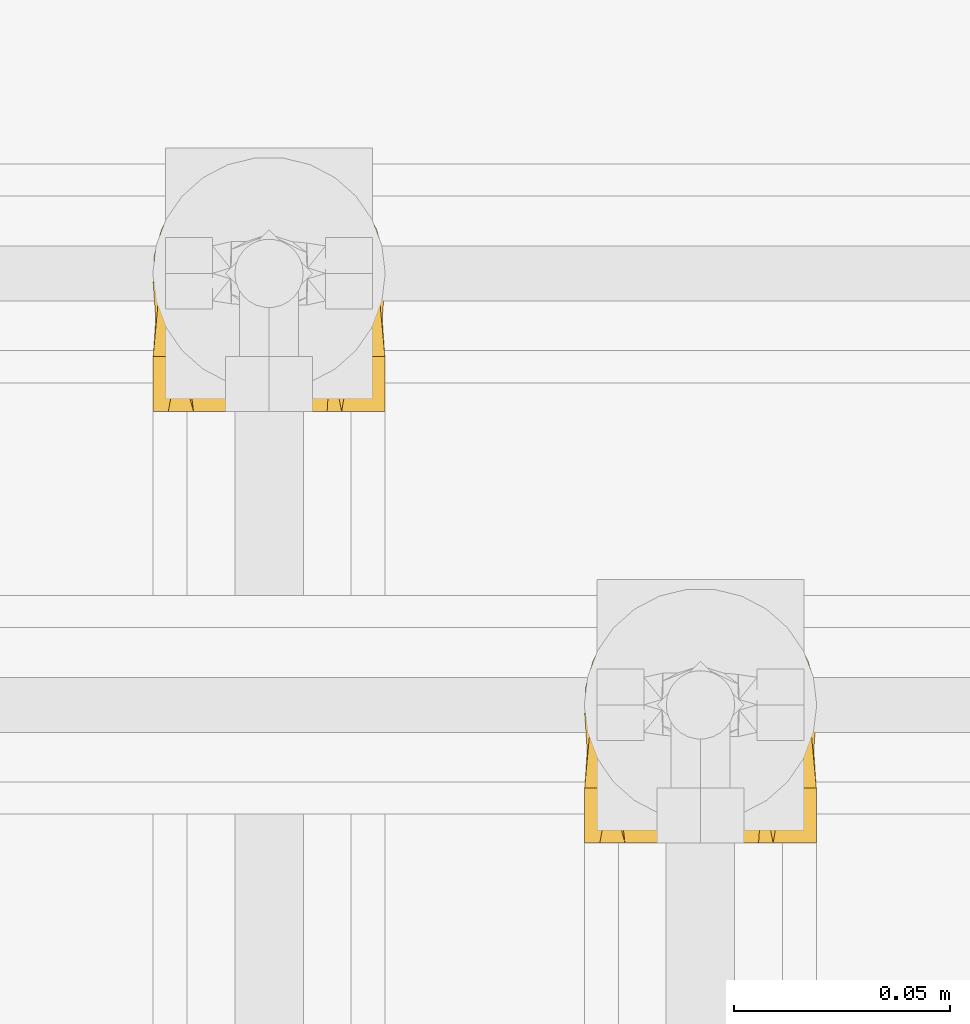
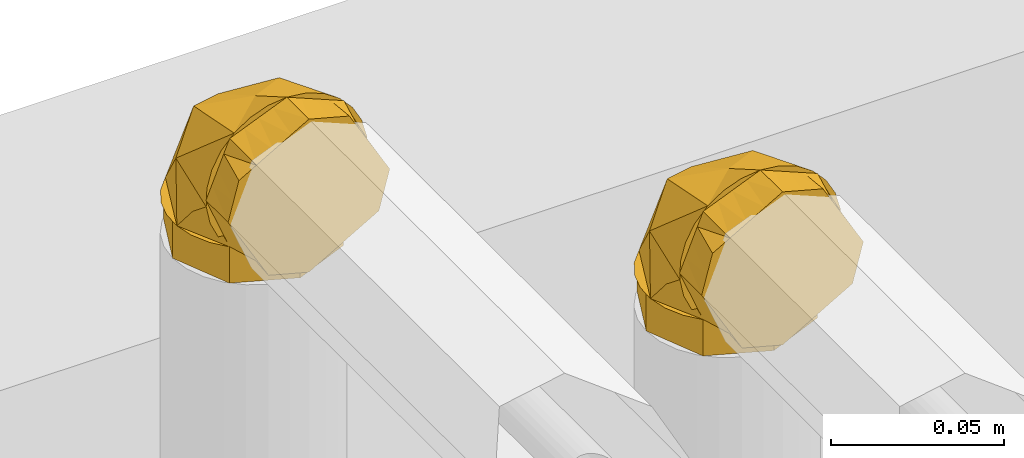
# One storey, part 395 of 652: 2 coverings.
"""IFC2X3 building model written with IfcOpenShell, lengths in millimetres."""

import ifcopenshell
import ifcopenshell.guid

model = None  # the IFC model being written
_history = None  # IfcOwnerHistory: only IFC2X3 demands one
_inside = {}  # id of a spatial element -> (the spatial element, [elements in it])
_under = {}  # id of a project, library or spatial element -> (it, [spatial elements below it])
_declared = {}  # id of a project -> (the project, [libraries it declares])
_typed = {}  # id of a type object -> (the type object, [elements of that type])
_made_of = {}  # id of a material, layer set ... -> (it, [elements and type objects made of it])


def new_model(schema):
    """Start an empty IFC model of exactly this schema.

    Asked for "IFC4X3", IfcOpenShell would pick the latest addendum, in which some entities
    have other attributes; the version numbers below select the first issue.
    IFC2X3 requires an IfcOwnerHistory on every rooted entity: one is made here for all.
    """
    global model, _history
    if schema == "IFC4X3":
        model = ifcopenshell.file(schema_version=(4, 3, 0, 0))
    else:
        model = ifcopenshell.file(schema=schema)
    _inside.clear()
    _under.clear()
    _declared.clear()
    _typed.clear()
    _made_of.clear()
    _history = None
    if model.schema == "IFC2X3":
        org = make("IfcOrganization", Name="unknown")
        user = make(
            "IfcPersonAndOrganization",
            ThePerson=make("IfcPerson", FamilyName="unknown"),
            TheOrganization=org,
        )
        app = make(
            "IfcApplication",
            ApplicationDeveloper=org,
            Version="unknown",
            ApplicationFullName="unknown",
            ApplicationIdentifier="unknown",
        )
        _history = make(
            "IfcOwnerHistory",
            OwningUser=user,
            OwningApplication=app,
            ChangeAction="ADDED",
            CreationDate=0,
        )
    return model


def make(cls, **values):
    """One entity of the class cls with the attributes given. An attribute that is None is left unset."""
    return model.create_entity(
        cls, **{name: value for name, value in values.items() if value is not None}
    )


def entity(cls, *values):
    """Any entity or typed value of the class cls, its attributes in the order of the schema. None: left unset."""
    e = model.create_entity(cls)
    for i, value in enumerate(values):
        if value is not None:
            e[i] = value
    return e


def rooted(cls, **values):
    """An entity with a GlobalId (a new one), such as an element, a storey or a relation."""
    return make(cls, GlobalId=ifcopenshell.guid.new(), OwnerHistory=_history, **values)


def si_unit(unit_type, name, prefix=None):
    """IfcSIUnit, for example si_unit("LENGTHUNIT", "METRE", prefix="MILLI")."""
    return make("IfcSIUnit", UnitType=unit_type, Prefix=prefix, Name=name)


def converted_unit(unit_type, name, factor, base, dimensions=None, offset=None):
    """IfcConversionBasedUnit, such as the inch: factor (a typed value) times the base unit."""
    return make(
        "IfcConversionBasedUnit"
        if offset is None
        else "IfcConversionBasedUnitWithOffset",
        ConversionOffset=offset,
        Dimensions=None
        if dimensions is None
        else entity("IfcDimensionalExponents", *dimensions),
        UnitType=unit_type,
        Name=name,
        ConversionFactor=make(
            "IfcMeasureWithUnit", ValueComponent=factor, UnitComponent=base
        ),
    )


def assignment(units):
    """IfcUnitAssignment: the units of a project."""
    return None if units is None else make("IfcUnitAssignment", Units=units)


def point(xyz):
    """IfcCartesianPoint."""
    return None if xyz is None else make("IfcCartesianPoint", Coordinates=xyz)


def direction(xyz):
    """IfcDirection."""
    return None if xyz is None else make("IfcDirection", DirectionRatios=xyz)


def frame(location, z_axis=None, x_axis=None):
    """IfcAxis2Placement3D, a coordinate frame: its origin and axes. An axis left out is left unset."""
    return make(
        "IfcAxis2Placement3D",
        Location=point(location),
        Axis=direction(z_axis),
        RefDirection=direction(x_axis),
    )


def origin():
    """The frame at (0, 0, 0) with its axes left unset."""
    return frame((0.0, 0.0, 0.0))


def place(relative_to, where):
    """IfcLocalPlacement: puts the frame where relative to a parent placement (None: the world)."""
    return make(
        "IfcLocalPlacement", PlacementRelTo=relative_to, RelativePlacement=where
    )


def context(
    kind, dimensions, precision=None, world=None, true_north=None, identifier=None
):
    """IfcGeometricRepresentationContext, for example the 3D "Model" context."""
    return make(
        "IfcGeometricRepresentationContext",
        ContextIdentifier=identifier,
        ContextType=kind,
        CoordinateSpaceDimension=dimensions,
        Precision=precision,
        WorldCoordinateSystem=world,
        TrueNorth=true_north,
    )


def subcontext(parent, identifier, kind, view, scale=None):
    """IfcGeometricRepresentationSubContext, for example "Body" below "Model"."""
    return make(
        "IfcGeometricRepresentationSubContext",
        ContextIdentifier=identifier,
        ContextType=kind,
        ParentContext=parent,
        TargetScale=scale,
        TargetView=view,
    )


def project(units=None, contexts=None):
    """IfcProject with its units and contexts."""
    return rooted(
        "IfcProject",
        Name="project",
        RepresentationContexts=contexts,
        UnitsInContext=assignment(units),
    )


def spatial(cls, under=None, at=None, **own):
    """A site, building, storey or space (cls), placed at a placement, below another one or the project."""
    s = rooted(cls, ObjectPlacement=at, **own)
    if under is not None:
        _under.setdefault(under.id(), (under, []))[1].append(s)
    return s


def faces_of(points, faces, orient=None, outer=None):
    """IfcFace entities. A face is a list of loops; a loop is a list of indices into points, from 0.

    orient and outer hold one flag for each loop. By default every Orientation is true, the
    first loop of a face is its IfcFaceOuterBound and the others are IfcFaceBound.
    """
    made = []
    for i, loops in enumerate(faces):
        bounds = []
        for j, loop in enumerate(loops):
            is_outer = j == 0 if outer is None else outer[i][j]
            bounds.append(
                make(
                    "IfcFaceOuterBound" if is_outer else "IfcFaceBound",
                    Bound=make("IfcPolyLoop", Polygon=[points[k] for k in loop]),
                    Orientation=True if orient is None else orient[i][j],
                )
            )
        made.append(make("IfcFace", Bounds=bounds))
    return made


def face_set(faces, orient=None, outer=None):
    """The faces of one IfcConnectedFaceSet. surface_model builds it on its shared points."""
    return ("IfcConnectedFaceSet", faces, orient, outer)


def surface_model(cls, points, shells):
    """IfcFaceBasedSurfaceModel or IfcShellBasedSurfaceModel (cls): surfaces that need not close."""
    shared = [point(p) for p in points]
    made = [make(c, CfsFaces=faces_of(shared, fs, o, b)) for c, fs, o, b in shells]
    if cls == "IfcFaceBasedSurfaceModel":
        return make(cls, FbsmFaces=made)
    return make(cls, SbsmBoundary=made)


def shape(context_of_items, identifier, shape_type, items):
    """IfcShapeRepresentation: the items that make up one representation, for example the "Body"."""
    return make(
        "IfcShapeRepresentation",
        ContextOfItems=context_of_items,
        RepresentationIdentifier=identifier,
        RepresentationType=shape_type,
        Items=items,
    )


def material(Name=None, Category=None):
    """IfcMaterial."""
    return make("IfcMaterial", Name=Name, Category=Category)


def made_of(thing, what):
    """Note that an element or type object is made of a material, layer set ...; save() writes the relation."""
    if what is not None:
        _made_of.setdefault(what.id(), (what, []))[1].append(thing)
    return thing


def type_object(cls, material=None, **own):
    """A type object (cls), such as IfcWallType, which elements share."""
    return made_of(rooted(cls, **own), material)


def element(
    cls,
    number,
    at=None,
    inside=None,
    cuts=None,
    type_object=None,
    material=None,
    context=None,
    identifier="Body",
    shape_type=None,
    held_by="IfcProductDefinitionShape",
    body=None,
    shapes=None,
    **own,
):
    """One element of the class cls, such as IfcWall. Its Tag is "e" and its number.

    at: its placement. inside: the storey or other place that contains it. cuts: it is an
    opening in that element (IfcRelVoidsElement). A single representation is given by context,
    identifier, shape_type and body (its items); several are given by shapes. held_by: the class
    of the entity that holds the representations. save() writes the other relations.
    """
    e = rooted(cls, Tag="e%d" % number, ObjectPlacement=at, **own)
    if body is not None:
        shapes = [shape(context, identifier, shape_type, body)]
    if shapes is not None:
        e.Representation = make(held_by, Representations=shapes)
    if inside is not None:
        _inside.setdefault(inside.id(), (inside, []))[1].append(e)
    if cuts is not None:
        rooted(
            "IfcRelVoidsElement", RelatingBuildingElement=cuts, RelatedOpeningElement=e
        )
    if type_object is not None:
        _typed.setdefault(type_object.id(), (type_object, []))[1].append(e)
    return made_of(e, material)


def aggregate(whole, parts):
    """IfcRelAggregates: a whole, such as a stair, and the parts it consists of."""
    return rooted("IfcRelAggregates", RelatingObject=whole, RelatedObjects=parts)


def save(model, path):
    """Write the relations noted so far, then the file.

    IfcRelAggregates (storeys below a building ...), IfcRelContainedInSpatialStructure (elements
    in a storey), IfcRelDefinesByType, IfcRelAssociatesMaterial and IfcRelDeclares: one each for
    every whole, place, type object, material and project.
    """
    for whole, parts in _under.values():
        aggregate(whole, parts)
    for where, things in _inside.values():
        rooted(
            "IfcRelContainedInSpatialStructure",
            RelatedElements=things,
            RelatingStructure=where,
        )
    for kind, things in _typed.values():
        rooted("IfcRelDefinesByType", RelatedObjects=things, RelatingType=kind)
    for what, things in _made_of.values():
        rooted("IfcRelAssociatesMaterial", RelatedObjects=things, RelatingMaterial=what)
    for by, libraries in _declared.values():
        rooted("IfcRelDeclares", RelatingContext=by, RelatedDefinitions=libraries)
    model.write(path)


model = new_model("IFC2X3")

# Units and contexts
model_context = context("Model", 3, precision=0.01, world=frame((0.0, 0.0, 308426.39999999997)), true_north=direction((6.123233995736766e-17, 1.0)))
plan_context = context("Plan", 3, precision=0.01, world=frame((0.0, 0.0, 308426.39999999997)), true_north=direction((6.123233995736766e-17, 1.0)))
body_context = subcontext(model_context, "Body", "Model", "MODEL_VIEW")
ifc_project = project(units=[si_unit("LENGTHUNIT", "METRE", prefix="MILLI"), si_unit("AREAUNIT", "SQUARE_METRE"), si_unit("VOLUMEUNIT", "CUBIC_METRE"), converted_unit("PLANEANGLEUNIT", "DEGREE", entity("IfcPlaneAngleMeasure", 0.017453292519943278), si_unit("PLANEANGLEUNIT", "RADIAN"), dimensions=[0, 0, 0, 0, 0, 0, 0])], contexts=[model_context, plan_context])

# Site, building, storey
site_placement = place(None, origin())
site = spatial("IfcSite", under=ifc_project, at=site_placement, Name="Default", CompositionType="ELEMENT")
building_placement = place(site_placement, origin())
building = spatial("IfcBuilding", under=site, at=building_placement, CompositionType="ELEMENT")
storey_placement = place(building_placement, frame((0.0, 0.0, 1730.6999999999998)))
storey = spatial("IfcBuildingStorey", under=building, at=storey_placement, Name="EG_Produktion_FFB", CompositionType="ELEMENT", Elevation=1730.6999999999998)

# Coverings
ifc_material = material(Name="Dämmung - Armaflex-Schlauch")
covering_type = type_object("IfcCoveringType", Name="Rohrdämmung außen:Armaflex-Schlauch", PredefinedType="INSULATION")
covering_1_placement = place(storey_placement, frame((15061.467227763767, 69558.11944626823, 4228.532772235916)))
element("IfcCovering", 1, at=covering_1_placement, inside=storey, type_object=covering_type, material=ifc_material, Name="Rohrdämmung außen:Armaflex-Schlauch", ObjectType="Rohrdämmung außen:Armaflex-Schlauch", PredefinedType="INSULATION", context=body_context, shape_type="SurfaceModel", body=[
    surface_model("IfcFaceBasedSurfaceModel", [(9.65642195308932, 12.766249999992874, -47.750272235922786), (5.678961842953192, 17.724287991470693, -47.75027223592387), (2.973980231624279, 23.47627931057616, -47.75027223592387), (1.6920879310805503, 29.70195853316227, -47.75027223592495), (1.9046594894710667, 36.054685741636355, -47.75027223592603), (3.5998591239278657, 42.1807471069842, -47.75027223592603), (6.683299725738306, 47.7390493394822, -47.75027223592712), (10.983298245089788, 52.420111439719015, -47.75027223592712), (16.260434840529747, 55.963296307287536, -47.7502722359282), (22.22088354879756, 58.17132276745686, -47.7502722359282), (28.532772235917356, 58.921249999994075, -47.7502722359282), (34.844660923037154, 58.17132276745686, -47.7502722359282), (40.805109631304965, 55.963296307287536, -47.7502722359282), (46.08224622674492, 52.420111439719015, -47.75027223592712), (50.382244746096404, 47.7390493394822, -47.75027223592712), (53.46568534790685, 42.1807471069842, -47.75027223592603), (55.16088498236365, 36.054685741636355, -47.75027223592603), (55.37345654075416, 29.70195853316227, -47.75027223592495), (54.09156424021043, 23.47627931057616, -47.75027223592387), (51.38658262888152, 17.724287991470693, -47.75027223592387), (47.40912251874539, 12.766249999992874, -47.750272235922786), (51.38658262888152, 12.766249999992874, -42.79223424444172), (54.09156424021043, 12.766249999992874, -37.04024292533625), (55.37345654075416, 12.766249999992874, -30.814563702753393), (55.16088498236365, 12.766249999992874, -24.46183649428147), (53.46568534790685, 12.766249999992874, -18.33577512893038), (50.382244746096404, 12.766249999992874, -12.777472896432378), (46.08224622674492, 12.766250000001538, -8.096410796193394), (40.805109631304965, 12.766250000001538, -4.553225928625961), (34.844660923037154, 12.766250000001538, -2.3451994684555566), (28.532772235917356, 12.766250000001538, -1.5952722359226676), (22.22088354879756, 12.766250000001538, -2.3451994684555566), (16.260434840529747, 12.766250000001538, -4.553225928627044), (10.983298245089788, 12.766250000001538, -8.096410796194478), (6.683299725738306, 12.766249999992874, -12.777472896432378), (3.5998591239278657, 12.766249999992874, -18.33577512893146), (1.9046594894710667, 12.766249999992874, -24.46183649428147), (1.6920879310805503, 12.766249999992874, -30.814563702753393), (2.973980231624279, 12.766249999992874, -37.04024292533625), (5.678961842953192, 12.766249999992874, -42.7922342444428), (2.276088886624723, 21.447448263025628, -37.807581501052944), (28.532625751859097, 52.738561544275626, -24.672918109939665), (3.6004266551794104, 33.567638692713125, -26.951267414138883), (6.337468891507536, 41.06020461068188, -47.749997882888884), (28.532625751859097, 31.028258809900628, -12.139962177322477), (14.285820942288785, 41.84155226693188, -17.3326684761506), (6.337468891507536, 12.764257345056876, -19.455213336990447), (42.78059328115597, 41.84155226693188, -17.3326684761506), (54.789162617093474, 21.447448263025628, -37.807581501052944), (53.46598756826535, 33.567638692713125, -26.951267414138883), (50.72778261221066, 12.764257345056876, -19.455213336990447), (50.72778261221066, 41.06020461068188, -47.749997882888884), (28.532772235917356, 58.921250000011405, -60.51652223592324), (33.2946944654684, 56.948797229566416, -60.51652223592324), (38.05661669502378, 54.97634445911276, -60.51652223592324), (42.81853892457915, 53.00389168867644, -60.51652223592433), (47.5804611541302, 51.03143891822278, -60.51652223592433), (49.55291392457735, 46.26951668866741, -60.51652223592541), (51.5253666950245, 41.507594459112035, -60.51652223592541), (53.49781946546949, 36.74567222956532, -60.51652223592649), (55.470272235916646, 31.983750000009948, -60.516522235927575), (53.49781946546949, 27.221827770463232, -60.516522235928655), (51.5253666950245, 22.459905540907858, -60.51652223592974), (49.55291392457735, 17.697983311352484, -60.51652223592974), (47.5804611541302, 12.936061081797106, -60.51652223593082), (42.81853892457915, 10.963608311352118, -60.51652223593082), (38.05661669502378, 8.99115554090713, -60.5165222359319), (33.2946944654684, 7.018702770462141, -60.5165222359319), (28.532772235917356, 5.046250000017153, -60.5165222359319), (23.770850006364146, 7.018702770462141, -60.5165222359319), (19.008927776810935, 8.99115554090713, -60.5165222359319), (14.247005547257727, 10.963608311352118, -60.51652223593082), (9.485083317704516, 12.936061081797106, -60.51652223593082), (7.512630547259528, 17.697983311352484, -60.51652223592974), (5.540177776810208, 22.459905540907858, -60.51652223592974), (3.5677250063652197, 27.221827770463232, -60.516522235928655), (1.5952722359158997, 31.983750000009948, -60.516522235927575), (3.5677250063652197, 36.74567222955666, -60.51652223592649), (5.540177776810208, 41.507594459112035, -60.51652223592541), (7.512630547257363, 46.26951668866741, -60.51652223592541), (9.485083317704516, 51.03143891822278, -60.51652223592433), (14.247005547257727, 53.00389168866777, -60.51652223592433), (19.008927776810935, 54.97634445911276, -60.51652223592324), (23.770850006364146, 56.948797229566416, -60.51652223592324), (28.532772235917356, 58.92125000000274, -47.75027223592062), (23.770850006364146, 56.94879722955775, -47.75027223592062), (19.008927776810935, 54.97634445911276, -47.750272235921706), (14.247005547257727, 53.00389168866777, -47.750272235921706), (9.485083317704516, 51.03143891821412, -47.750272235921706), (7.095738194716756, 45.26304951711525, -47.750272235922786), (4.706393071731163, 39.49466011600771, -47.75027223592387), (1.5952722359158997, 31.983750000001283, -47.75027223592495), (3.5677250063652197, 27.22182777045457, -47.75027223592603), (5.5401777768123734, 22.459905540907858, -47.75027223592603), (7.512630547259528, 17.697983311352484, -47.75027223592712), (9.485083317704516, 12.936061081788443, -47.7502722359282), (15.253472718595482, 10.546715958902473, -47.7502722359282), (21.021862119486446, 8.157370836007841, -47.75027223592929), (28.532772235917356, 5.046250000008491, -47.75027223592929), (33.2946944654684, 7.018702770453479, -47.75027223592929), (38.05661669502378, 8.99115554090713, -47.7502722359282), (42.81853892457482, 10.963608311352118, -47.7502722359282), (47.5804611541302, 12.936061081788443, -47.7502722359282), (49.96980627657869, 18.704450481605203, -47.75027223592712), (52.359151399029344, 24.472839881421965, -47.75027223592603), (55.470272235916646, 31.983750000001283, -47.75027223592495), (53.49781946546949, 36.74567222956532, -47.75027223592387), (51.5253666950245, 41.507594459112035, -47.75027223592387), (49.55291392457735, 46.26951668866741, -47.750272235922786), (47.5804611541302, 51.03143891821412, -47.750272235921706), (41.81207177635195, 53.420784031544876, -47.750272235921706), (36.0436823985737, 55.810129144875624, -47.750272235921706), (28.532772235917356, 0.0, -1.5952722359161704), (22.700632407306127, 0.0, -4.962459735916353), (16.868492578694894, 0.0, -8.329647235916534), (11.036352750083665, 0.0, -11.696834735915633), (5.204212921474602, 0.0, -15.064022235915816), (3.3997425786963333, 0.0, -21.79839723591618), (1.5952722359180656, 0.0, -28.532772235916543), (4.962459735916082, 0.0, -34.36491206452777), (8.329647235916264, 0.0, -40.197051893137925), (11.696834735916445, 0.0, -46.02919172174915), (15.064022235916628, 0.0, -51.861331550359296), (21.79839723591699, 0.0, -53.66580189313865), (28.532772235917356, 0.0, -55.470272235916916), (34.36491206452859, 0.0, -52.10308473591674), (40.197051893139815, 0.0, -48.73589723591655), (46.02919172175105, 0.0, -45.36870973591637), (51.86133155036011, 0.0, -42.00152223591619), (53.66580189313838, 0.0, -35.26714723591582), (55.470272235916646, 0.0, -28.532772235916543), (52.10308473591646, 0.0, -22.700632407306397), (48.73589723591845, 0.0, -16.868492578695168), (45.368709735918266, 0.0, -11.036352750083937), (42.00152223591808, 0.0, -5.204212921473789), (35.26714723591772, 0.0, -3.3997425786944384), (53.49781946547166, 12.766250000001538, -33.29469446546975), (51.5253666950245, 12.766250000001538, -38.05661669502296), (49.55291392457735, 12.766250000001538, -42.818538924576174), (47.5804611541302, 12.766250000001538, -47.58046115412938), (42.818538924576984, 12.766250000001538, -49.552913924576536), (38.05661669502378, 12.766250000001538, -51.52536669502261), (33.2946944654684, 12.766250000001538, -53.49781946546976), (28.532772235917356, 12.766250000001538, -55.470272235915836), (23.770850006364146, 12.766250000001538, -53.49781946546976), (19.008927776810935, 12.766250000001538, -51.52536669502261), (14.247005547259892, 12.766250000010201, -49.552913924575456), (9.485083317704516, 12.766250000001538, -47.58046115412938), (7.512630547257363, 12.766250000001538, -42.818538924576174), (5.540177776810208, 12.766250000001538, -38.05661669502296), (3.5677250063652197, 12.766250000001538, -33.29469446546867), (1.5952722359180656, 12.766250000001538, -28.532772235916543), (3.5677250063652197, 12.766250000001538, -23.770850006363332), (5.540177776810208, 12.766250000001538, -19.008927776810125), (7.512630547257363, 12.766249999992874, -14.247005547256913), (9.485083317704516, 12.766250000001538, -9.485083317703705), (14.247005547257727, 12.766250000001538, -7.51263054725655), (19.008927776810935, 12.766250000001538, -5.540177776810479), (23.770850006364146, 12.766249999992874, -3.567725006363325), (28.532772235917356, 12.766250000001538, -1.5952722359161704), (33.29469446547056, 12.766250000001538, -3.567725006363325), (38.05661669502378, 12.766250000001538, -5.540177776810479), (42.818538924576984, 12.766249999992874, -7.512630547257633), (47.5804611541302, 12.766250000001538, -9.485083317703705), (49.55291392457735, 12.766250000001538, -14.247005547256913), (51.5253666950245, 12.766250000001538, -19.008927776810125), (53.49781946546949, 12.766250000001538, -23.770850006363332), (55.470272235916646, 12.766250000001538, -28.532772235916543)], [face_set([[[0, 1, 2, 3, 4, 5, 6, 7, 8, 9, 10, 11, 12, 13, 14, 15, 16, 17, 18, 19]], [[20, 21, 22, 23, 24, 25, 26, 27, 28, 29, 30, 31, 32, 33, 34, 35, 36, 37, 38, 39]], [[0, 40, 3]], [[10, 7, 41]], [[37, 42, 40]], [[42, 7, 43]], [[37, 40, 0]], [[3, 40, 42]], [[44, 41, 45]], [[7, 45, 41]], [[33, 30, 44]], [[44, 45, 33]], [[42, 33, 45]], [[42, 37, 46]], [[7, 42, 45]], [[43, 3, 42]], [[46, 33, 42]], [[13, 10, 41]], [[27, 47, 44]], [[44, 30, 27]], [[48, 49, 23]], [[49, 27, 50]], [[17, 49, 48]], [[44, 47, 41]], [[20, 48, 23]], [[47, 49, 13]], [[17, 48, 20]], [[41, 47, 13]], [[49, 17, 51]], [[27, 49, 47]], [[50, 23, 49]], [[51, 13, 49]]]), face_set([[[52, 53, 54, 55, 56, 57, 58, 59, 60, 61, 62, 63, 64, 65, 66, 67, 68, 69, 70, 71, 72, 73, 74, 75, 76, 77, 78, 79, 80, 81, 82, 83]], [[84, 85, 86, 87, 88, 89, 90, 91, 92, 93, 94, 95, 96, 97, 98, 99, 100, 101, 102, 103, 104, 105, 106, 107, 108, 109, 110, 111]], [[111, 110, 109, 56, 55, 54, 53, 52, 84]], [[56, 109, 108, 107, 106, 105, 60, 59, 58, 57]], [[104, 103, 102, 64, 63, 62, 61, 60, 105]], [[64, 102, 101, 100, 99, 98, 68, 67, 66, 65]], [[97, 96, 95, 72, 71, 70, 69, 68, 98]], [[72, 95, 94, 93, 92, 91, 76, 75, 74, 73]], [[90, 89, 88, 80, 79, 78, 77, 76, 91]], [[80, 88, 87, 86, 85, 84, 52, 83, 82, 81]]]), face_set([[[112, 113, 114, 115, 116, 117, 118, 119, 120, 121, 122, 123, 124, 125, 126, 127, 128, 129, 130, 131, 132, 133, 134, 135]], [[136, 137, 138, 139, 140, 141, 142, 143, 144, 145, 146, 147, 148, 149, 150, 151, 152, 153, 154, 155, 156, 157, 158, 159, 160, 161, 162, 163, 164, 165, 166, 167]], [[146, 121, 147]], [[118, 150, 119]], [[150, 149, 119]], [[123, 145, 144]], [[144, 143, 124]], [[121, 146, 122]], [[120, 149, 148]], [[118, 151, 150]], [[149, 120, 119]], [[124, 123, 144]], [[148, 147, 121]], [[146, 145, 122]], [[123, 122, 145]], [[120, 148, 121]], [[154, 115, 155]], [[112, 158, 113]], [[158, 157, 113]], [[117, 153, 152]], [[152, 151, 118]], [[115, 154, 116]], [[114, 157, 156]], [[112, 159, 158]], [[157, 114, 113]], [[118, 117, 152]], [[156, 155, 115]], [[154, 153, 116]], [[117, 116, 153]], [[114, 156, 115]], [[162, 133, 163]], [[130, 166, 131]], [[166, 165, 131]], [[135, 161, 160]], [[160, 159, 112]], [[133, 162, 134]], [[132, 165, 164]], [[130, 167, 166]], [[165, 132, 131]], [[112, 135, 160]], [[164, 163, 133]], [[162, 161, 134]], [[135, 134, 161]], [[132, 164, 133]], [[138, 127, 139]], [[124, 142, 125]], [[142, 141, 125]], [[129, 137, 136]], [[136, 167, 130]], [[127, 138, 128]], [[126, 141, 140]], [[124, 143, 142]], [[141, 126, 125]], [[130, 129, 136]], [[140, 139, 127]], [[138, 137, 128]], [[129, 128, 137]], [[126, 140, 127]]])]),
])
covering_2_placement = place(storey_placement, frame((14961.467227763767, 69658.11944626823, 4228.532772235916)))
element("IfcCovering", 2, at=covering_2_placement, inside=storey, type_object=covering_type, material=ifc_material, Name="Rohrdämmung außen:Armaflex-Schlauch", ObjectType="Rohrdämmung außen:Armaflex-Schlauch", PredefinedType="INSULATION", context=body_context, shape_type="SurfaceModel", body=[
    surface_model("IfcFaceBasedSurfaceModel", [(9.65642195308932, 12.766249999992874, -47.750272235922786), (5.678961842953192, 17.724287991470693, -47.75027223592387), (2.973980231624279, 23.47627931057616, -47.75027223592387), (1.6920879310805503, 29.70195853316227, -47.75027223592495), (1.9046594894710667, 36.054685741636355, -47.75027223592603), (3.5998591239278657, 42.1807471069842, -47.75027223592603), (6.683299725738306, 47.7390493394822, -47.75027223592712), (10.983298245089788, 52.420111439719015, -47.75027223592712), (16.260434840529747, 55.963296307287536, -47.7502722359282), (22.22088354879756, 58.17132276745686, -47.7502722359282), (28.532772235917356, 58.921249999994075, -47.7502722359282), (34.844660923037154, 58.17132276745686, -47.7502722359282), (40.805109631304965, 55.963296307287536, -47.7502722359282), (46.08224622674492, 52.420111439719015, -47.75027223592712), (50.382244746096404, 47.7390493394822, -47.75027223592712), (53.46568534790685, 42.1807471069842, -47.75027223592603), (55.16088498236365, 36.054685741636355, -47.75027223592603), (55.37345654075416, 29.70195853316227, -47.75027223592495), (54.09156424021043, 23.47627931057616, -47.75027223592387), (51.38658262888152, 17.724287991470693, -47.75027223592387), (47.40912251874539, 12.766249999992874, -47.750272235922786), (51.38658262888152, 12.766249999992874, -42.79223424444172), (54.09156424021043, 12.766249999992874, -37.04024292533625), (55.37345654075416, 12.766249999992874, -30.814563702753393), (55.16088498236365, 12.766249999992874, -24.46183649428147), (53.46568534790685, 12.766249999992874, -18.33577512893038), (50.382244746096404, 12.766249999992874, -12.777472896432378), (46.08224622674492, 12.766250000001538, -8.096410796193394), (40.805109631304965, 12.766250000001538, -4.553225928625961), (34.844660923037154, 12.766250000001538, -2.3451994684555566), (28.532772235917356, 12.766250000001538, -1.5952722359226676), (22.22088354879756, 12.766250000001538, -2.3451994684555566), (16.260434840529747, 12.766250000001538, -4.553225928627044), (10.983298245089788, 12.766250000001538, -8.096410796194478), (6.683299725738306, 12.766249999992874, -12.777472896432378), (3.5998591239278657, 12.766249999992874, -18.33577512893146), (1.9046594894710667, 12.766249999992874, -24.46183649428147), (1.6920879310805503, 12.766249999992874, -30.814563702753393), (2.973980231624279, 12.766249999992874, -37.04024292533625), (5.678961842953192, 12.766249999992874, -42.7922342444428), (2.2763788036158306, 21.445995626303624, -37.807581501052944), (28.532915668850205, 52.737108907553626, -24.672918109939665), (3.5995538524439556, 33.566186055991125, -26.951267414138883), (6.337758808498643, 41.05875197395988, -47.749997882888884), (28.532915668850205, 31.031457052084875, -12.139962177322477), (14.28494813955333, 41.84009963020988, -17.3326684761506), (6.337758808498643, 12.767455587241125, -19.455213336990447), (42.77972047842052, 41.84009963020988, -17.3326684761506), (54.78945253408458, 21.445995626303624, -37.807581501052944), (53.4651147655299, 33.566186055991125, -26.951267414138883), (50.72807252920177, 12.767455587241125, -19.455213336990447), (50.72807252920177, 41.05875197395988, -47.749997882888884), (28.532772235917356, 58.921250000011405, -60.51652223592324), (33.29469446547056, 56.948797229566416, -60.51652223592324), (38.05661669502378, 54.97634445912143, -60.51652223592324), (42.81853892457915, 53.00389168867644, -60.51652223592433), (47.5804611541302, 51.03143891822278, -60.51652223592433), (49.55291392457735, 46.26951668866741, -60.51652223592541), (51.5253666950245, 41.507594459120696, -60.51652223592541), (53.49781946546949, 36.74567222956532, -60.51652223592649), (55.470272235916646, 31.983750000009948, -60.516522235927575), (53.49781946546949, 27.22182777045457, -60.516522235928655), (51.5253666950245, 22.459905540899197, -60.51652223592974), (49.552913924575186, 17.697983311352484, -60.51652223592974), (47.5804611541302, 12.936061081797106, -60.51652223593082), (42.818538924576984, 10.963608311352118, -60.51652223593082), (38.05661669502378, 8.991155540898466, -60.5165222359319), (33.29469446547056, 7.018702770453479, -60.5165222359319), (28.532772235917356, 5.046250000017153, -60.5165222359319), (23.770850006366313, 7.018702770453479, -60.5165222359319), (19.008927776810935, 8.991155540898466, -60.5165222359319), (14.247005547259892, 10.963608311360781, -60.51652223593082), (9.485083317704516, 12.936061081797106, -60.51652223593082), (7.512630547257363, 17.697983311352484, -60.51652223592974), (5.540177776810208, 22.459905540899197, -60.51652223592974), (3.5677250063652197, 27.22182777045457, -60.516522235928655), (1.5952722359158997, 31.983750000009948, -60.516522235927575), (3.5677250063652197, 36.74567222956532, -60.51652223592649), (5.540177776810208, 41.507594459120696, -60.51652223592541), (7.512630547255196, 46.26951668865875, -60.51652223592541), (9.485083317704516, 51.03143891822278, -60.51652223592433), (14.247005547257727, 53.00389168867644, -60.51652223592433), (19.008927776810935, 54.97634445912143, -60.51652223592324), (23.770850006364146, 56.948797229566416, -60.51652223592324), (28.532772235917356, 58.92125000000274, -47.75027223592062), (23.770850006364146, 56.948797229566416, -47.75027223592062), (19.008927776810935, 54.97634445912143, -47.750272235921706), (14.24700554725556, 53.00389168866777, -47.750272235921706), (9.485083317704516, 51.03143891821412, -47.750272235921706), (7.095738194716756, 45.26304951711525, -47.750272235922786), (4.706393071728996, 39.49466011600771, -47.75027223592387), (1.5952722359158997, 31.983750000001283, -47.75027223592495), (3.5677250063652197, 27.22182777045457, -47.75027223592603), (5.5401777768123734, 22.459905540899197, -47.75027223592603), (7.512630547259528, 17.69798331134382, -47.75027223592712), (9.485083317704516, 12.936061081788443, -47.7502722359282), (15.253472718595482, 10.546715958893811, -47.7502722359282), (21.021862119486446, 8.157370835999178, -47.75027223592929), (28.532772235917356, 5.046250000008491, -47.75027223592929), (33.29469446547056, 7.018702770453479, -47.75027223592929), (38.05661669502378, 8.991155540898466, -47.7502722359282), (42.81853892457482, 10.963608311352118, -47.7502722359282), (47.5804611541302, 12.936061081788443, -47.7502722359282), (49.96980627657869, 18.704450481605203, -47.75027223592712), (52.359151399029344, 24.472839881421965, -47.75027223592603), (55.470272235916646, 31.983750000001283, -47.75027223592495), (53.49781946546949, 36.74567222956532, -47.75027223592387), (51.5253666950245, 41.507594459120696, -47.75027223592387), (49.552913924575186, 46.26951668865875, -47.750272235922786), (47.5804611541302, 51.03143891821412, -47.750272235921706), (41.81207177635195, 53.42078403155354, -47.750272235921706), (36.0436823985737, 55.810129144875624, -47.750272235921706), (28.532772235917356, 0.0, -1.5952722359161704), (22.700632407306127, 0.0, -4.962459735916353), (16.868492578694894, 0.0, -8.329647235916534), (11.03635275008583, 0.0, -11.696834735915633), (5.204212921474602, 0.0, -15.064022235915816), (3.3997425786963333, 0.0, -21.79839723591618), (1.5952722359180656, 0.0, -28.532772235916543), (4.962459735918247, 0.0, -34.36491206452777), (8.329647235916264, 0.0, -40.197051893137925), (11.696834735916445, 0.0, -46.02919172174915), (15.064022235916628, 0.0, -51.861331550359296), (21.79839723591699, 0.0, -53.66580189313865), (28.532772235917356, 0.0, -55.470272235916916), (34.36491206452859, 0.0, -52.10308473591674), (40.197051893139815, 0.0, -48.73589723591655), (46.02919172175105, 0.0, -45.36870973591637), (51.86133155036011, 0.0, -42.00152223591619), (53.66580189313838, 0.0, -35.26714723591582), (55.470272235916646, 0.0, -28.532772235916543), (52.10308473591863, 0.0, -22.700632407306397), (48.73589723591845, 0.0, -16.868492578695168), (45.368709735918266, 0.0, -11.036352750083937), (42.00152223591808, 0.0, -5.204212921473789), (35.26714723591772, 0.0, -3.3997425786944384), (53.49781946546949, 12.766250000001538, -33.29469446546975), (51.5253666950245, 12.766250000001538, -38.05661669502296), (49.55291392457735, 12.766250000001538, -42.818538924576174), (47.5804611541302, 12.766250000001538, -47.58046115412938), (42.818538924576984, 12.766250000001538, -49.552913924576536), (38.05661669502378, 12.766250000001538, -51.52536669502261), (33.29469446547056, 12.766250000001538, -53.49781946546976), (28.532772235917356, 12.766250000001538, -55.470272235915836), (23.77085000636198, 12.766250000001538, -53.49781946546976), (19.008927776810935, 12.766250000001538, -51.52536669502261), (14.247005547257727, 12.766250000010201, -49.552913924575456), (9.485083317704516, 12.766250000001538, -47.58046115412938), (7.512630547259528, 12.766250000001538, -42.818538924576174), (5.540177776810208, 12.766250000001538, -38.05661669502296), (3.5677250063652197, 12.766250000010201, -33.29469446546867), (1.5952722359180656, 12.766250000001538, -28.532772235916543), (3.5677250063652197, 12.766249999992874, -23.770850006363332), (5.540177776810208, 12.766250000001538, -19.008927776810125), (7.512630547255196, 12.766249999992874, -14.247005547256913), (9.485083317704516, 12.766250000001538, -9.485083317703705), (14.24700554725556, 12.766249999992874, -7.51263054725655), (19.008927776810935, 12.766250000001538, -5.540177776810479), (23.77085000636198, 12.766249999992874, -3.567725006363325), (28.532772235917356, 12.766250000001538, -1.5952722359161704), (33.29469446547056, 12.766250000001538, -3.567725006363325), (38.05661669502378, 12.766250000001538, -5.540177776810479), (42.81853892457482, 12.766249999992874, -7.512630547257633), (47.5804611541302, 12.766250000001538, -9.485083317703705), (49.55291392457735, 12.766250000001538, -14.247005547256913), (51.5253666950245, 12.766250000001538, -19.008927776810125), (53.49781946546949, 12.766250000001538, -23.770850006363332), (55.470272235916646, 12.766250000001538, -28.532772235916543)], [face_set([[[0, 1, 2, 3, 4, 5, 6, 7, 8, 9, 10, 11, 12, 13, 14, 15, 16, 17, 18, 19]], [[20, 21, 22, 23, 24, 25, 26, 27, 28, 29, 30, 31, 32, 33, 34, 35, 36, 37, 38, 39]], [[0, 40, 3]], [[10, 7, 41]], [[37, 42, 40]], [[42, 7, 43]], [[37, 40, 0]], [[3, 40, 42]], [[44, 41, 45]], [[7, 45, 41]], [[33, 30, 44]], [[44, 45, 33]], [[42, 33, 45]], [[42, 37, 46]], [[7, 42, 45]], [[43, 3, 42]], [[46, 33, 42]], [[13, 10, 41]], [[27, 47, 44]], [[44, 30, 27]], [[48, 49, 23]], [[49, 27, 50]], [[17, 49, 48]], [[44, 47, 41]], [[20, 48, 23]], [[47, 49, 13]], [[17, 48, 20]], [[41, 47, 13]], [[49, 17, 51]], [[27, 49, 47]], [[50, 23, 49]], [[51, 13, 49]]]), face_set([[[52, 53, 54, 55, 56, 57, 58, 59, 60, 61, 62, 63, 64, 65, 66, 67, 68, 69, 70, 71, 72, 73, 74, 75, 76, 77, 78, 79, 80, 81, 82, 83]], [[84, 85, 86, 87, 88, 89, 90, 91, 92, 93, 94, 95, 96, 97, 98, 99, 100, 101, 102, 103, 104, 105, 106, 107, 108, 109, 110, 111]], [[111, 110, 109, 56, 55, 54, 53, 52, 84]], [[56, 109, 108, 107, 106, 105, 60, 59, 58, 57]], [[104, 103, 102, 64, 63, 62, 61, 60, 105]], [[64, 102, 101, 100, 99, 98, 68, 67, 66, 65]], [[97, 96, 95, 72, 71, 70, 69, 68, 98]], [[72, 95, 94, 93, 92, 91, 76, 75, 74, 73]], [[90, 89, 88, 80, 79, 78, 77, 76, 91]], [[80, 88, 87, 86, 85, 84, 52, 83, 82, 81]]]), face_set([[[112, 113, 114, 115, 116, 117, 118, 119, 120, 121, 122, 123, 124, 125, 126, 127, 128, 129, 130, 131, 132, 133, 134, 135]], [[136, 137, 138, 139, 140, 141, 142, 143, 144, 145, 146, 147, 148, 149, 150, 151, 152, 153, 154, 155, 156, 157, 158, 159, 160, 161, 162, 163, 164, 165, 166, 167]], [[146, 121, 147]], [[118, 150, 119]], [[150, 149, 119]], [[123, 145, 144]], [[144, 143, 124]], [[121, 146, 122]], [[120, 149, 148]], [[118, 151, 150]], [[149, 120, 119]], [[124, 123, 144]], [[148, 147, 121]], [[146, 145, 122]], [[123, 122, 145]], [[120, 148, 121]], [[154, 115, 155]], [[112, 158, 113]], [[158, 157, 113]], [[117, 153, 152]], [[152, 151, 118]], [[115, 154, 116]], [[114, 157, 156]], [[112, 159, 158]], [[157, 114, 113]], [[118, 117, 152]], [[156, 155, 115]], [[154, 153, 116]], [[117, 116, 153]], [[114, 156, 115]], [[162, 133, 163]], [[130, 166, 131]], [[166, 165, 131]], [[135, 161, 160]], [[160, 159, 112]], [[133, 162, 134]], [[132, 165, 164]], [[130, 167, 166]], [[165, 132, 131]], [[112, 135, 160]], [[164, 163, 133]], [[162, 161, 134]], [[135, 134, 161]], [[132, 164, 133]], [[138, 127, 139]], [[124, 142, 125]], [[142, 141, 125]], [[129, 137, 136]], [[136, 167, 130]], [[127, 138, 128]], [[126, 141, 140]], [[124, 143, 142]], [[141, 126, 125]], [[130, 129, 136]], [[140, 139, 127]], [[138, 137, 128]], [[129, 128, 137]], [[126, 140, 127]]])]),
])

save(model, "model.ifc")
